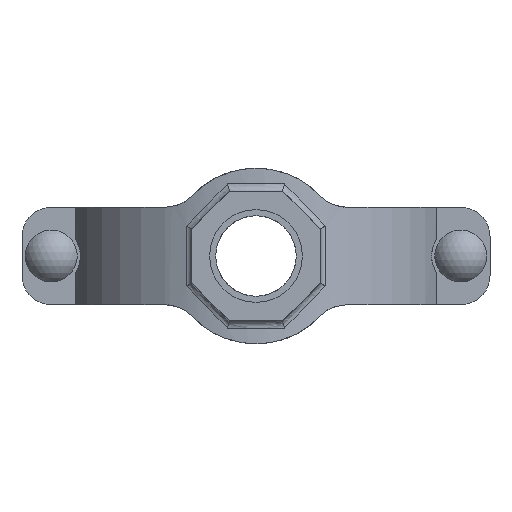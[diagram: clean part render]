
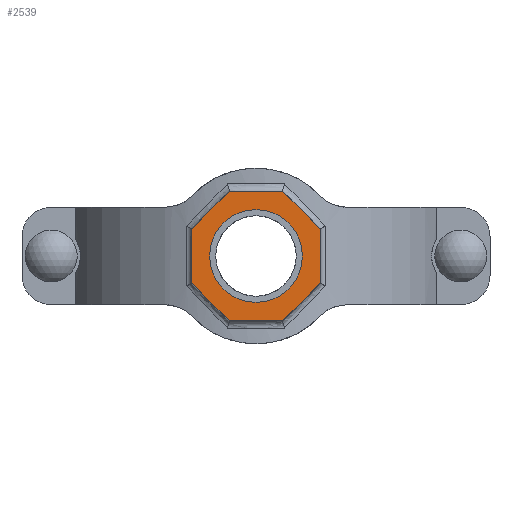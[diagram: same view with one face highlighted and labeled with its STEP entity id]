
A CAD part, front view. The second image highlights one B-rep face of the part: STEP entity #2539.
In plain terms, the highlighted planar face has unit normal (0, -1, 0) as drawn and (0, 1, 0) by its records, which use the part's own axes.
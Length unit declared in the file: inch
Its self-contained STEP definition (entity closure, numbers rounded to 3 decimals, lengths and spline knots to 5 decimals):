
#186=FACE_BOUND('',#459,.T.);
#307=FACE_OUTER_BOUND('',#458,.T.);
#458=EDGE_LOOP('',(#2138,#2139,#2140,#2141,#2142,#2143,#2144,#2145));
#459=EDGE_LOOP('',(#2146));
#594=LINE('',#4656,#780);
#597=LINE('',#4661,#783);
#599=LINE('',#4665,#785);
#601=LINE('',#4669,#787);
#641=LINE('',#5102,#827);
#643=LINE('',#5106,#829);
#645=LINE('',#5110,#831);
#647=LINE('',#5113,#833);
#780=VECTOR('',#3278,0.3937);
#783=VECTOR('',#3283,0.3937);
#785=VECTOR('',#3287,0.3937);
#787=VECTOR('',#3291,0.3937);
#827=VECTOR('',#3427,0.3937);
#829=VECTOR('',#3431,0.3937);
#831=VECTOR('',#3435,0.3937);
#833=VECTOR('',#3439,0.3937);
#919=CIRCLE('',#2802,1.1875);
#1097=VERTEX_POINT('',#4653);
#1098=VERTEX_POINT('',#4655);
#1099=VERTEX_POINT('',#4659);
#1100=VERTEX_POINT('',#4663);
#1101=VERTEX_POINT('',#4667);
#1136=VERTEX_POINT('',#4947);
#1160=VERTEX_POINT('',#5101);
#1161=VERTEX_POINT('',#5105);
#1162=VERTEX_POINT('',#5109);
#1408=EDGE_CURVE('',#1098,#1097,#594,.T.);
#1411=EDGE_CURVE('',#1097,#1099,#597,.T.);
#1413=EDGE_CURVE('',#1099,#1100,#599,.T.);
#1415=EDGE_CURVE('',#1100,#1101,#601,.T.);
#1461=EDGE_CURVE('',#1136,#1136,#919,.T.);
#1495=EDGE_CURVE('',#1160,#1098,#641,.T.);
#1497=EDGE_CURVE('',#1161,#1160,#643,.T.);
#1499=EDGE_CURVE('',#1162,#1161,#645,.T.);
#1501=EDGE_CURVE('',#1101,#1162,#647,.T.);
#2138=ORIENTED_EDGE('',*,*,#1501,.T.);
#2139=ORIENTED_EDGE('',*,*,#1499,.T.);
#2140=ORIENTED_EDGE('',*,*,#1497,.T.);
#2141=ORIENTED_EDGE('',*,*,#1495,.T.);
#2142=ORIENTED_EDGE('',*,*,#1408,.T.);
#2143=ORIENTED_EDGE('',*,*,#1411,.T.);
#2144=ORIENTED_EDGE('',*,*,#1413,.T.);
#2145=ORIENTED_EDGE('',*,*,#1415,.T.);
#2146=ORIENTED_EDGE('',*,*,#1461,.T.);
#2280=PLANE('',#2825);
#2539=ADVANCED_FACE('',(#307,#186),#2280,.T.);
#2802=AXIS2_PLACEMENT_3D('',#4948,#3369,#3370);
#2825=AXIS2_PLACEMENT_3D('',#5114,#3440,#3441);
#3278=DIRECTION('',(0.,0.,1.));
#3283=DIRECTION('',(0.707,0.,0.707));
#3287=DIRECTION('',(1.,0.,0.));
#3291=DIRECTION('',(0.707,0.,-0.707));
#3369=DIRECTION('center_axis',(0.,-1.,0.));
#3370=DIRECTION('ref_axis',(-1.,0.,0.));
#3427=DIRECTION('',(-0.707,0.,0.707));
#3431=DIRECTION('',(-1.,0.,0.));
#3435=DIRECTION('',(-0.707,0.,-0.707));
#3439=DIRECTION('',(0.,0.,-1.));
#3440=DIRECTION('center_axis',(0.,1.,0.));
#3441=DIRECTION('ref_axis',(0.,0.,1.));
#4653=CARTESIAN_POINT('',(-1.6565,6.19,0.68614));
#4655=CARTESIAN_POINT('',(-1.6565,6.19,-0.68614));
#4656=CARTESIAN_POINT('',(-1.6565,6.19,0.68614));
#4659=CARTESIAN_POINT('',(-0.68614,6.19,1.6565));
#4661=CARTESIAN_POINT('',(-0.68614,6.19,1.6565));
#4663=CARTESIAN_POINT('',(0.68614,6.19,1.6565));
#4665=CARTESIAN_POINT('',(0.68614,6.19,1.6565));
#4667=CARTESIAN_POINT('',(1.6565,6.19,0.68614));
#4669=CARTESIAN_POINT('',(1.6565,6.19,0.68614));
#4947=CARTESIAN_POINT('',(1.1875,6.19,0.));
#4948=CARTESIAN_POINT('Origin',(0.,6.19,0.));
#5101=CARTESIAN_POINT('',(-0.68614,6.19,-1.6565));
#5102=CARTESIAN_POINT('',(-1.6565,6.19,-0.68614));
#5105=CARTESIAN_POINT('',(0.68614,6.19,-1.6565));
#5106=CARTESIAN_POINT('',(-0.68614,6.19,-1.6565));
#5109=CARTESIAN_POINT('',(1.6565,6.19,-0.68614));
#5110=CARTESIAN_POINT('',(0.68614,6.19,-1.6565));
#5113=CARTESIAN_POINT('',(1.6565,6.19,-0.68614));
#5114=CARTESIAN_POINT('Origin',(0.,6.19,0.));
